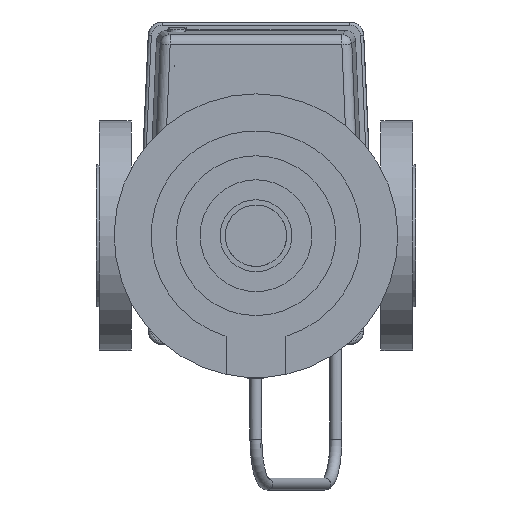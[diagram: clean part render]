
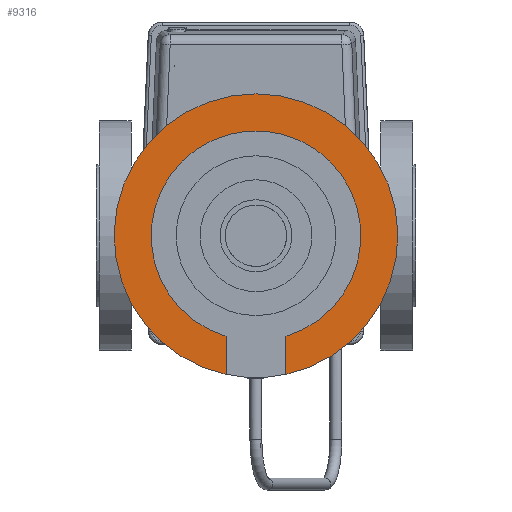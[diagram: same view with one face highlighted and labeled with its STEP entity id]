
A CAD part, front view. The second image highlights one B-rep face of the part: STEP entity #9316.
In plain terms, the highlighted planar face has unit normal (0, -1, 0).
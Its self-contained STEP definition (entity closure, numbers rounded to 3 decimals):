
#652=LINE('',#13898,#1014);
#653=LINE('',#13900,#1015);
#1014=VECTOR('',#11631,1000.);
#1015=VECTOR('',#11632,1000.);
#1199=PLANE('',#10007);
#2522=ORIENTED_EDGE('',*,*,#3726,.T.);
#2523=ORIENTED_EDGE('',*,*,#3725,.T.);
#2524=ORIENTED_EDGE('',*,*,#3727,.T.);
#2525=ORIENTED_EDGE('',*,*,#3728,.F.);
#3725=EDGE_CURVE('',#4424,#4427,#4859,.T.);
#3726=EDGE_CURVE('',#4428,#4424,#652,.T.);
#3727=EDGE_CURVE('',#4427,#4429,#653,.T.);
#3728=EDGE_CURVE('',#4428,#4429,#4860,.T.);
#4424=VERTEX_POINT('',#13890);
#4427=VERTEX_POINT('',#13895);
#4428=VERTEX_POINT('',#13899);
#4429=VERTEX_POINT('',#13901);
#4859=CIRCLE('',#10006,52.5);
#4860=CIRCLE('',#10008,71.);
#5305=EDGE_LOOP('',(#2522,#2523,#2524,#2525));
#5849=FACE_BOUND('',#5305,.T.);
#9316=ADVANCED_FACE('',(#5849),#1199,.F.);
#10006=AXIS2_PLACEMENT_3D('',#13896,#11627,#11628);
#10007=AXIS2_PLACEMENT_3D('',#13897,#11629,#11630);
#10008=AXIS2_PLACEMENT_3D('',#13902,#11633,#11634);
#11627=DIRECTION('',(0.,1.,0.));
#11628=DIRECTION('',(0.,0.,-1.));
#11629=DIRECTION('',(0.,1.,0.));
#11630=DIRECTION('',(0.,0.,1.));
#11631=DIRECTION('',(0.,0.,1.));
#11632=DIRECTION('',(0.,0.,-1.));
#11633=DIRECTION('',(0.,1.,0.));
#11634=DIRECTION('',(0.,0.,-1.));
#13890=CARTESIAN_POINT('',(-242.965,-16.9,-50.312));
#13895=CARTESIAN_POINT('',(-212.965,-16.9,-50.312));
#13896=CARTESIAN_POINT('',(-227.965,-16.9,0.));
#13897=CARTESIAN_POINT('',(-227.965,-16.9,0.));
#13898=CARTESIAN_POINT('',(-242.965,-16.9,0.));
#13899=CARTESIAN_POINT('',(-242.965,-16.9,-69.397));
#13900=CARTESIAN_POINT('',(-212.965,-16.9,0.));
#13901=CARTESIAN_POINT('',(-212.965,-16.9,-69.397));
#13902=CARTESIAN_POINT('',(-227.965,-16.9,0.));
